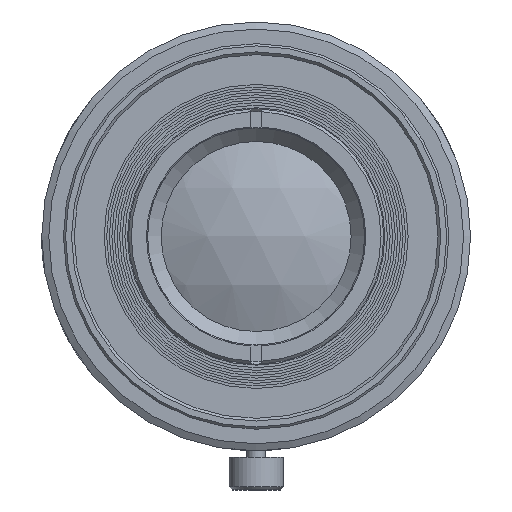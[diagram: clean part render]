
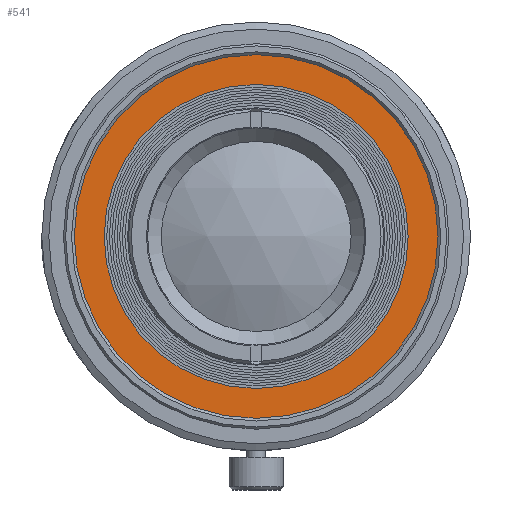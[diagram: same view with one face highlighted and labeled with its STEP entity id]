
A CAD part, front view. The second image highlights one B-rep face of the part: STEP entity #541.
In plain terms, the highlighted planar face has unit normal (0, -1, 0).
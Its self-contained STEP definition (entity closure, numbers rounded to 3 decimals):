
#541 = ADVANCED_FACE( 'NONE', ( #1316, #1317 ), #1318, .F. );
#1316 = FACE_OUTER_BOUND( '', #2358, .T. );
#1317 = FACE_BOUND( '', #2359, .T. );
#1318 = PLANE( '', #2360 );
#2358 = EDGE_LOOP( '', ( #3880 ) );
#2359 = EDGE_LOOP( '', ( #3881 ) );
#2360 = AXIS2_PLACEMENT_3D( '', #3882, #3883, #3884 );
#3880 = ORIENTED_EDGE( '', *, *, #5726, .T. );
#3881 = ORIENTED_EDGE( '', *, *, #5727, .F. );
#3882 = CARTESIAN_POINT( '', ( 0., -52.694, 17. ) );
#3883 = DIRECTION( '', ( 0., 1., 0. ) );
#3884 = DIRECTION( '', ( 1., 0., 0. ) );
#5726 = EDGE_CURVE( 'NONE', #6878, #6878, #6879, .T. );
#5727 = EDGE_CURVE( 'NONE', #6880, #6880, #6881, .T. );
#6878 = VERTEX_POINT( '', #9029 );
#6879 = CIRCLE( '', #9030, 17. );
#6880 = VERTEX_POINT( '', #9031 );
#6881 = CIRCLE( '', #9032, 14. );
#9029 = CARTESIAN_POINT( '', ( 0., -52.694, -17. ) );
#9030 = AXIS2_PLACEMENT_3D( '', #10285, #10286, #10287 );
#9031 = CARTESIAN_POINT( '', ( 0., -52.694, -14. ) );
#9032 = AXIS2_PLACEMENT_3D( '', #10288, #10289, #10290 );
#10285 = CARTESIAN_POINT( '', ( 0., -52.694, 0. ) );
#10286 = DIRECTION( '', ( 0., -1., 0. ) );
#10287 = DIRECTION( '', ( 0., 0., -1. ) );
#10288 = CARTESIAN_POINT( '', ( 0., -52.694, 0. ) );
#10289 = DIRECTION( '', ( 0., -1., 0. ) );
#10290 = DIRECTION( '', ( 0., 0., -1. ) );
